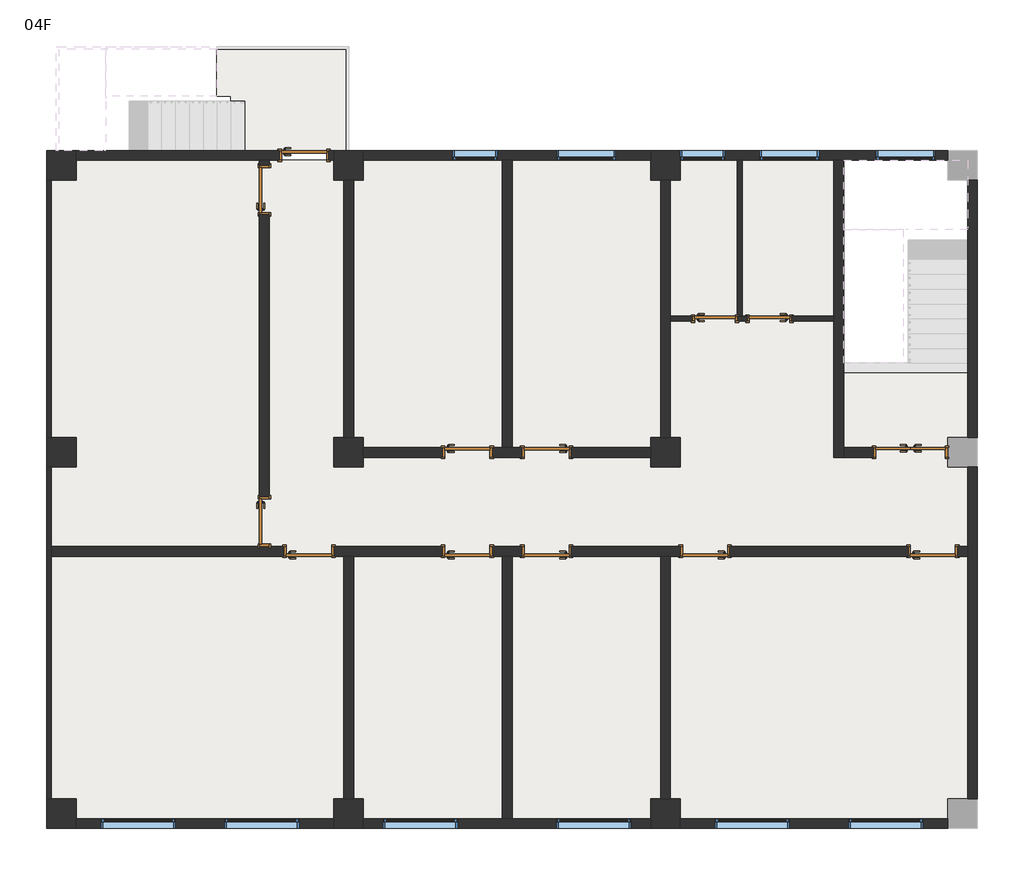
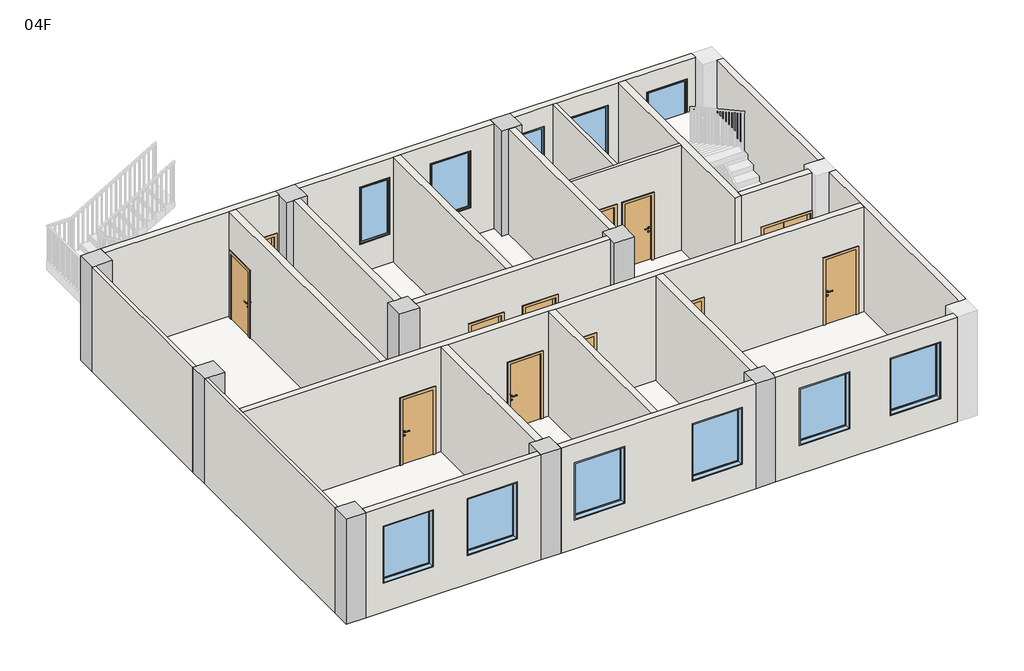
# One storey, part 1 of 3: 23 walls, 13 doors, 11 windows, 9 columns, 2 slabs.
"""IFC4 building model written with IfcOpenShell, lengths in millimetres."""

from ifc_helpers import new_model, si_unit, frame, origin, place, context, project, spatial, polyline, outline, extrude, faceted_brep, transform, mapped, element, save
from components import column_600_x_600mm_0ba91544, m2_692f9d9b, m3_ab7da2a0, m3_c9bb6752, m4_a67fd2dd, m4_12d08f6f, c2_16925ed6, c4_3407baf4, c6_982aaf11

model = new_model("IFC4")

# Units and contexts
model_context = context("Model", 3, world=origin())
ifc_project = project(units=[si_unit("LENGTHUNIT", "METRE", prefix="MILLI")], contexts=[model_context])

# Site, building, storey
site = spatial("IfcSite", under=ifc_project)
building = spatial("IfcBuilding", under=site)
storey = spatial("IfcBuildingStorey", under=building, Name="04F", Elevation=10500.0)

# Columns
placement = place(None, origin())
column_600_x_600mm_shape = column_600_x_600mm_0ba91544(model_context)
element("IfcColumn", 1, ObjectType="混凝土 - 矩形 - 柱 : 600 x 600mm", at=placement, inside=storey, context=model_context, shape_type="MappedRepresentation", body=[
    mapped(column_600_x_600mm_shape, transform((200.0, 13300.0, 0.0), x_axis=(1.0, 0.0, 0.0), y_axis=(0.0, 1.0, 0.0), z_axis=(0.0, 0.0, 1.0))),
])
element("IfcColumn", 2, ObjectType="混凝土 - 矩形 - 柱 : 600 x 600mm", at=placement, inside=storey, context=model_context, shape_type="MappedRepresentation", body=[
    mapped(column_600_x_600mm_shape, transform((6000.0, 13300.0, 0.0), x_axis=(1.0, 0.0, 0.0), y_axis=(0.0, 1.0, 0.0), z_axis=(0.0, 0.0, 1.0))),
])
element("IfcColumn", 3, ObjectType="混凝土 - 矩形 - 柱 : 600 x 600mm", at=placement, inside=storey, context=model_context, shape_type="MappedRepresentation", body=[
    mapped(column_600_x_600mm_shape, transform((12400.0, 13300.0, 0.0), x_axis=(1.0, 0.0, 0.0), y_axis=(0.0, 1.0, 0.0), z_axis=(0.0, 0.0, 1.0))),
])
element("IfcColumn", 4, ObjectType="混凝土 - 矩形 - 柱 : 600 x 600mm", at=placement, inside=storey, context=model_context, shape_type="MappedRepresentation", body=[
    mapped(column_600_x_600mm_shape, transform((200.0, 7500.0, 0.0), x_axis=(1.0, 0.0, 0.0), y_axis=(0.0, 1.0, 0.0), z_axis=(0.0, 0.0, 1.0))),
])
element("IfcColumn", 5, ObjectType="混凝土 - 矩形 - 柱 : 600 x 600mm", at=placement, inside=storey, context=model_context, shape_type="MappedRepresentation", body=[
    mapped(column_600_x_600mm_shape, transform((6000.0, 7500.0, 0.0), x_axis=(1.0, 0.0, 0.0), y_axis=(0.0, 1.0, 0.0), z_axis=(0.0, 0.0, 1.0))),
])
element("IfcColumn", 6, ObjectType="混凝土 - 矩形 - 柱 : 600 x 600mm", at=placement, inside=storey, context=model_context, shape_type="MappedRepresentation", body=[
    mapped(column_600_x_600mm_shape, transform((12400.0, 7500.0, 0.0), x_axis=(1.0, 0.0, 0.0), y_axis=(0.0, 1.0, 0.0), z_axis=(0.0, 0.0, 1.0))),
])
element("IfcColumn", 7, ObjectType="混凝土 - 矩形 - 柱 : 600 x 600mm", at=placement, inside=storey, context=model_context, shape_type="MappedRepresentation", body=[
    mapped(column_600_x_600mm_shape, transform((200.0, 200.0, 0.0), x_axis=(1.0, 0.0, 0.0), y_axis=(0.0, 1.0, 0.0), z_axis=(0.0, 0.0, 1.0))),
])
element("IfcColumn", 8, ObjectType="混凝土 - 矩形 - 柱 : 600 x 600mm", at=placement, inside=storey, context=model_context, shape_type="MappedRepresentation", body=[
    mapped(column_600_x_600mm_shape, transform((6000.0, 200.0, 0.0), x_axis=(1.0, 0.0, 0.0), y_axis=(0.0, 1.0, 0.0), z_axis=(0.0, 0.0, 1.0))),
])
element("IfcColumn", 9, ObjectType="混凝土 - 矩形 - 柱 : 600 x 600mm", at=placement, inside=storey, context=model_context, shape_type="MappedRepresentation", body=[
    mapped(column_600_x_600mm_shape, transform((12400.0, 200.0, 0.0), x_axis=(1.0, 0.0, 0.0), y_axis=(0.0, 1.0, 0.0), z_axis=(0.0, 0.0, 1.0))),
])

# Doors
m2_shape = m2_692f9d9b(model_context)
element("IfcDoor", 10, ObjectType="双面嵌板木门 1 : M2", at=placement, inside=storey, context=model_context, shape_type="MappedRepresentation", body=[
    mapped(m2_shape, transform((17350.0, 7500.0, 10500.0), x_axis=(1.0, 0.0, 0.0), y_axis=(0.0, 1.0, 0.0), z_axis=(0.0, 0.0, 1.0))),
])
m3_shape = m3_ab7da2a0(model_context)
element("IfcDoor", 11, ObjectType="单嵌板木门 1 : M3", at=placement, inside=storey, context=model_context, shape_type="MappedRepresentation", body=[
    mapped(m3_shape, transform((17800.0, 5500.0, 10500.0), x_axis=(1.0, 0.0, 0.0), y_axis=(0.0, 1.0, 0.0), z_axis=(0.0, 0.0, 1.0))),
])
element("IfcDoor", 12, ObjectType="单嵌板木门 1 : M3", at=placement, inside=storey, context=model_context, shape_type="MappedRepresentation", body=[
    mapped(m3_shape, transform((8400.0, 5500.0, 10500.0), x_axis=(1.0, 0.0, 0.0), y_axis=(0.0, 1.0, 0.0), z_axis=(0.0, 0.0, 1.0))),
])
element("IfcDoor", 13, ObjectType="单嵌板木门 1 : M3", at=placement, inside=storey, context=model_context, shape_type="MappedRepresentation", body=[
    mapped(m3_shape, transform((4300.0, 6100.0, 10500.0), x_axis=(0.0, -1.0, 0.0), y_axis=(1.0, 0.0, 0.0), z_axis=(0.0, 0.0, 1.0))),
])
element("IfcDoor", 14, ObjectType="单嵌板木门 1 : M3", at=placement, inside=storey, context=model_context, shape_type="MappedRepresentation", body=[
    mapped(m3_shape, transform((5200.0, 5500.0, 10500.0), x_axis=(1.0, 0.0, 0.0), y_axis=(0.0, 1.0, 0.0), z_axis=(0.0, 0.0, 1.0))),
])
element("IfcDoor", 15, ObjectType="单嵌板木门 1 : M3", at=placement, inside=storey, context=model_context, shape_type="MappedRepresentation", body=[
    mapped(m3_shape, transform((10000.0, 7500.0, 10500.0), x_axis=(-1.0, 0.0, 0.0), y_axis=(0.0, -1.0, 0.0), z_axis=(0.0, 0.0, 1.0))),
])
m3_2_shape = m3_c9bb6752(model_context)
element("IfcDoor", 16, ObjectType="单嵌板木门 1 : M3", at=placement, inside=storey, context=model_context, shape_type="MappedRepresentation", body=[
    mapped(m3_2_shape, transform((13200.0, 5500.0, 10500.0), x_axis=(-1.0, 0.0, 0.0), y_axis=(0.0, -1.0, 0.0), z_axis=(0.0, 0.0, 1.0))),
])
element("IfcDoor", 17, ObjectType="单嵌板木门 1 : M3", at=placement, inside=storey, context=model_context, shape_type="MappedRepresentation", body=[
    mapped(m3_2_shape, transform((10000.0, 5500.0, 10500.0), x_axis=(-1.0, 0.0, 0.0), y_axis=(0.0, -1.0, 0.0), z_axis=(0.0, 0.0, 1.0))),
])
element("IfcDoor", 18, ObjectType="单嵌板木门 1 : M3", at=placement, inside=storey, context=model_context, shape_type="MappedRepresentation", body=[
    mapped(m3_2_shape, transform((5100.0, 13500.0, 10500.0), x_axis=(1.0, 0.0, 0.0), y_axis=(0.0, 1.0, 0.0), z_axis=(0.0, 0.0, 1.0))),
])
element("IfcDoor", 19, ObjectType="单嵌板木门 1 : M3", at=placement, inside=storey, context=model_context, shape_type="MappedRepresentation", body=[
    mapped(m3_2_shape, transform((4300.0, 12800.0, 10500.0), x_axis=(0.0, 1.0, 0.0), y_axis=(-1.0, 0.0, 0.0), z_axis=(0.0, 0.0, 1.0))),
])
element("IfcDoor", 20, ObjectType="单嵌板木门 1 : M3", at=placement, inside=storey, context=model_context, shape_type="MappedRepresentation", body=[
    mapped(m3_2_shape, transform((8400.0, 7500.0, 10500.0), x_axis=(1.0, 0.0, 0.0), y_axis=(0.0, 1.0, 0.0), z_axis=(0.0, 0.0, 1.0))),
])
m4_shape = m4_a67fd2dd(model_context)
element("IfcDoor", 21, ObjectType="单嵌板木门 1 : M4", at=placement, inside=storey, context=model_context, shape_type="MappedRepresentation", body=[
    mapped(m4_shape, transform((13400.0, 10200.0, 10500.0), x_axis=(1.0, 0.0, 0.0), y_axis=(0.0, 1.0, 0.0), z_axis=(0.0, 0.0, 1.0))),
])
m4_2_shape = m4_12d08f6f(model_context)
element("IfcDoor", 22, ObjectType="单嵌板木门 1 : M4", at=placement, inside=storey, context=model_context, shape_type="MappedRepresentation", body=[
    mapped(m4_2_shape, transform((14500.0, 10200.0, 10500.0), x_axis=(-1.0, 0.0, 0.0), y_axis=(0.0, -1.0, 0.0), z_axis=(0.0, 0.0, 1.0))),
])

# Slabs
element("IfcSlab", 23, ObjectType="100mm厚钢筋混凝土", at=placement, inside=storey, context=model_context, shape_type="SweptSolid", body=[
    extrude(outline(polyline([(15800.0, 13400.0), (15800.0, 9100.0), (18500.0, 9100.0), (18500.0, 100.0), (0.0, 100.0), (0.0, 13400.0), (15800.0, 13400.0)])), frame((0.0, 0.0, 10400.0), z_axis=(0.0, 0.0, 1.0), x_axis=(1.0, 0.0, 0.0)), (0.0, 0.0, 1.0), 100.0),
])
element("IfcSlab", 24, ObjectType="常规 - 300mm", at=placement, inside=storey, context=model_context, shape_type="SweptSolid", body=[
    extrude(outline(polyline([(6000.0, 15699.6), (6000.0, 13600.0), (3620.0, 13600.0), (3620.0, 14700.0), (3340.0, 14700.0), (3340.0, 15699.6), (6000.0, 15699.6)])), frame((0.0, 0.0, 10335.0), z_axis=(0.0, 0.0, 1.0), x_axis=(1.0, 0.0, 0.0)), (0.0, 0.0, 1.0), 165.0),
])

# Walls
element("IfcWall", 25, ObjectType="200mm厚加气混凝土砌块", at=placement, inside=storey, context=model_context, shape_type="Brep", body=[
    faceted_brep([(5700.0, 13400.0, 10500.0), (5700.0, 13400.0, 13800.0), (4400.0, 13400.0, 13800.0), (4200.0, 13400.0, 13800.0), (500.0, 13400.0, 13800.0), (500.0, 13400.0, 10500.0), (4200.0, 13400.0, 10500.0), (4400.0, 13400.0, 10500.0), (4600.0, 13400.0, 10500.0), (4600.0, 13400.0, 12600.0), (5600.0, 13400.0, 12600.0), (5600.0, 13400.0, 10500.0), (5700.0, 13600.0, 13800.0), (5700.0, 13600.0, 10500.0), (5600.0, 13600.0, 10500.0), (5600.0, 13600.0, 12600.0), (4600.0, 13600.0, 12600.0), (4600.0, 13600.0, 10500.0), (500.0, 13600.0, 10500.0), (500.0, 13600.0, 13800.0)], [[[0, 1, 2, 3, 4, 5, 6, 7, 8, 9, 10, 11]], [[12, 13, 14, 15, 16, 17, 18, 19]], [[13, 0, 11, 14]], [[5, 18, 17, 8, 7, 6]], [[1, 0, 13, 12]], [[4, 3, 2, 1, 12, 19]], [[5, 4, 19, 18]], [[10, 15, 14, 11]], [[15, 10, 9, 16]], [[16, 9, 8, 17]]]),
])
element("IfcWall", 26, ObjectType="200mm厚加气混凝土砌块", at=placement, inside=storey, context=model_context, shape_type="Brep", body=[
    faceted_brep([(6300.0, 13400.0, 10500.0), (9100.0, 13400.0, 10500.0), (9300.0, 13400.0, 10500.0), (12100.0, 13400.0, 10500.0), (12100.0, 13400.0, 13800.0), (9300.0, 13400.0, 13800.0), (9100.0, 13400.0, 13800.0), (6300.0, 13400.0, 13800.0), (11400.0, 13400.0, 11400.0), (10200.0, 13400.0, 11400.0), (10200.0, 13400.0, 13200.0), (11400.0, 13400.0, 13200.0), (9000.0, 13400.0, 11400.0), (8100.0, 13400.0, 11400.0), (8100.0, 13400.0, 13200.0), (9000.0, 13400.0, 13200.0), (6300.0, 13600.0, 10500.0), (6300.0, 13600.0, 13800.0), (12100.0, 13600.0, 13800.0), (12100.0, 13600.0, 10500.0), (11400.0, 13600.0, 11400.0), (11400.0, 13600.0, 13200.0), (10200.0, 13600.0, 13200.0), (10200.0, 13600.0, 11400.0), (9000.0, 13600.0, 11400.0), (9000.0, 13600.0, 13200.0), (8100.0, 13600.0, 13200.0), (8100.0, 13600.0, 11400.0)], [[[0, 1, 2, 3, 4, 5, 6, 7], [8, 9, 10, 11], [12, 13, 14, 15]], [[16, 17, 18, 19], [20, 21, 22, 23], [24, 25, 26, 27]], [[3, 2, 1, 0, 16, 19]], [[4, 3, 19, 18]], [[7, 6, 5, 4, 18, 17]], [[0, 7, 17, 16]], [[21, 20, 8, 11]], [[22, 21, 11, 10]], [[23, 22, 10, 9]], [[20, 23, 9, 8]], [[25, 24, 12, 15]], [[26, 25, 15, 14]], [[27, 26, 14, 13]], [[24, 27, 13, 12]]]),
])
element("IfcWall", 27, ObjectType="200mm厚加气混凝土砌块", at=placement, inside=storey, context=model_context, shape_type="Brep", body=[
    faceted_brep([(13600.0, 13400.0, 11400.0), (12700.0, 13400.0, 11400.0), (12700.0, 13400.0, 10500.0), (13850.0, 13400.0, 10500.0), (13950.0, 13400.0, 10500.0), (15800.0, 13400.0, 10500.0), (16000.0, 13400.0, 10500.0), (18100.0, 13400.0, 10500.0), (18100.0, 13400.0, 13800.0), (16000.0, 13400.0, 13800.0), (15800.0, 13400.0, 13800.0), (13950.0, 13400.0, 13800.0), (13850.0, 13400.0, 13800.0), (12700.0, 13400.0, 13800.0), (12700.0, 13400.0, 13200.0), (13600.0, 13400.0, 13200.0), (17850.0, 13400.0, 11400.0), (16650.0, 13400.0, 11400.0), (16650.0, 13400.0, 13200.0), (17850.0, 13400.0, 13200.0), (15500.0, 13400.0, 11400.0), (14300.0, 13400.0, 11400.0), (14300.0, 13400.0, 13200.0), (15500.0, 13400.0, 13200.0), (12700.0, 13600.0, 10500.0), (12700.0, 13600.0, 11400.0), (13600.0, 13600.0, 11400.0), (13600.0, 13600.0, 13200.0), (12700.0, 13600.0, 13200.0), (12700.0, 13600.0, 13800.0), (18100.0, 13600.0, 13800.0), (18100.0, 13600.0, 10500.0), (17850.0, 13600.0, 11400.0), (17850.0, 13600.0, 13200.0), (16650.0, 13600.0, 13200.0), (16650.0, 13600.0, 11400.0), (15500.0, 13600.0, 11400.0), (15500.0, 13600.0, 13200.0), (14300.0, 13600.0, 13200.0), (14300.0, 13600.0, 11400.0)], [[[0, 1, 2, 3, 4, 5, 6, 7, 8, 9, 10, 11, 12, 13, 14, 15], [16, 17, 18, 19], [20, 21, 22, 23]], [[24, 25, 26, 27, 28, 29, 30, 31], [32, 33, 34, 35], [36, 37, 38, 39]], [[7, 6, 5, 4, 3, 2, 24, 31]], [[8, 7, 31, 30]], [[13, 12, 11, 10, 9, 8, 30, 29]], [[14, 13, 29, 28]], [[2, 1, 25, 24]], [[33, 32, 16, 19]], [[34, 33, 19, 18]], [[35, 34, 18, 17]], [[32, 35, 17, 16]], [[37, 36, 20, 23]], [[38, 37, 23, 22]], [[39, 38, 22, 21]], [[36, 39, 21, 20]], [[27, 26, 0, 15]], [[28, 27, 15, 14]], [[26, 25, 1, 0]]]),
])
element("IfcWall", 28, ObjectType="200mm厚加气混凝土砌块", at=placement, inside=storey, context=model_context, shape_type="SweptSolid", body=[
    extrude(outline(polyline([(18500.0, 7800.0), (18500.0, 13000.0), (18700.0, 13000.0), (18700.0, 7800.0), (18500.0, 7800.0)])), frame((0.0, 0.0, 10500.0), z_axis=(0.0, 0.0, 1.0), x_axis=(1.0, 0.0, 0.0)), (0.0, 0.0, 1.0), 3300.0),
])
element("IfcWall", 29, ObjectType="200mm厚加气混凝土砌块", at=placement, inside=storey, context=model_context, shape_type="Brep", body=[
    faceted_brep([(18500.0, 7200.0, 10500.0), (18500.0, 5600.0, 10500.0), (18500.0, 5400.0, 10500.0), (18500.0, 500.0, 10500.0), (18500.0, 500.0, 13800.0), (18500.0, 5400.0, 13800.0), (18500.0, 5600.0, 13800.0), (18500.0, 7200.0, 13800.0), (18700.0, 7200.0, 10500.0), (18700.0, 7200.0, 13800.0), (18700.0, 500.0, 13800.0), (18700.0, 500.0, 10500.0)], [[[0, 1, 2, 3, 4, 5, 6, 7]], [[8, 9, 10, 11]], [[3, 2, 1, 0, 8, 11]], [[4, 3, 11, 10]], [[7, 6, 5, 4, 10, 9]], [[0, 7, 9, 8]]]),
])
element("IfcWall", 30, ObjectType="200mm厚加气混凝土砌块", at=placement, inside=storey, context=model_context, shape_type="SweptSolid", body=[
    extrude(outline(polyline([(10500.0, 18100.0), (13800.0, 18100.0), (13800.0, 12700.0), (10500.0, 12700.0), (10500.0, 18100.0)]), holes=[polyline([(11400.0, 16100.0), (13200.0, 16100.0), (13200.0, 17600.0), (11400.0, 17600.0), (11400.0, 16100.0)]), polyline([(11400.0, 13400.0), (13200.0, 13400.0), (13200.0, 14900.0), (11400.0, 14900.0), (11400.0, 13400.0)])]), frame((0.0, -100.0, 0.0), z_axis=(0.0, 1.0, 0.0), x_axis=(0.0, 0.0, 1.0)), (0.0, 0.0, 1.0), 200.0),
])
element("IfcWall", 31, ObjectType="200mm厚加气混凝土砌块", at=placement, inside=storey, context=model_context, shape_type="Brep", body=[
    faceted_brep([(12100.0, 100.0, 10500.0), (9300.0, 100.0, 10500.0), (9100.0, 100.0, 10500.0), (6300.0, 100.0, 10500.0), (6300.0, 100.0, 13800.0), (9100.0, 100.0, 13800.0), (9300.0, 100.0, 13800.0), (12100.0, 100.0, 13800.0), (6700.0, 100.0, 11400.0), (8200.0, 100.0, 11400.0), (8200.0, 100.0, 13200.0), (6700.0, 100.0, 13200.0), (10200.0, 100.0, 11400.0), (11700.0, 100.0, 11400.0), (11700.0, 100.0, 13200.0), (10200.0, 100.0, 13200.0), (12100.0, -100.0, 10500.0), (12100.0, -100.0, 13800.0), (6300.0, -100.0, 13800.0), (6300.0, -100.0, 10500.0), (6700.0, -100.0, 11400.0), (6700.0, -100.0, 13200.0), (8200.0, -100.0, 13200.0), (8200.0, -100.0, 11400.0), (10200.0, -100.0, 11400.0), (10200.0, -100.0, 13200.0), (11700.0, -100.0, 13200.0), (11700.0, -100.0, 11400.0)], [[[0, 1, 2, 3, 4, 5, 6, 7], [8, 9, 10, 11], [12, 13, 14, 15]], [[16, 17, 18, 19], [20, 21, 22, 23], [24, 25, 26, 27]], [[3, 2, 1, 0, 16, 19]], [[4, 3, 19, 18]], [[7, 6, 5, 4, 18, 17]], [[0, 7, 17, 16]], [[21, 20, 8, 11]], [[22, 21, 11, 10]], [[23, 22, 10, 9]], [[20, 23, 9, 8]], [[25, 24, 12, 15]], [[26, 25, 15, 14]], [[27, 26, 14, 13]], [[24, 27, 13, 12]]]),
])
element("IfcWall", 32, ObjectType="200mm厚加气混凝土砌块", at=placement, inside=storey, context=model_context, shape_type="SweptSolid", body=[
    extrude(outline(polyline([(10500.0, 5700.0), (13800.0, 5700.0), (13800.0, 500.0), (10500.0, 500.0), (10500.0, 5700.0)]), holes=[polyline([(11400.0, 1000.0), (13200.0, 1000.0), (13200.0, 2500.0), (11400.0, 2500.0), (11400.0, 1000.0)]), polyline([(11400.0, 3500.0), (13200.0, 3500.0), (13200.0, 5000.0), (11400.0, 5000.0), (11400.0, 3500.0)])]), frame((0.0, -100.0, 0.0), z_axis=(0.0, 1.0, 0.0), x_axis=(0.0, 0.0, 1.0)), (0.0, 0.0, 1.0), 200.0),
])
element("IfcWall", 33, ObjectType="100mm厚加气混凝土砌块", at=placement, inside=storey, context=model_context, shape_type="Brep", body=[
    faceted_brep([(0.0, 500.0, 10500.0), (0.0, 5400.0, 10500.0), (0.0, 5600.0, 10500.0), (0.0, 7200.0, 10500.0), (0.0, 7200.0, 13800.0), (0.0, 5600.0, 13800.0), (0.0, 5400.0, 13800.0), (0.0, 500.0, 13800.0), (-100.0, 500.0, 10500.0), (-100.0, 500.0, 13800.0), (-100.0, 7200.0, 13800.0), (-100.0, 7200.0, 10500.0)], [[[0, 1, 2, 3, 4, 5, 6, 7]], [[8, 9, 10, 11]], [[3, 2, 1, 0, 8, 11]], [[4, 3, 11, 10]], [[7, 6, 5, 4, 10, 9]], [[0, 7, 9, 8]]]),
])
element("IfcWall", 34, ObjectType="100mm厚加气混凝土砌块", at=placement, inside=storey, context=model_context, shape_type="SweptSolid", body=[
    extrude(outline(polyline([(0.0, 13000.0), (0.0, 7800.0), (-100.0, 7800.0), (-100.0, 13000.0), (0.0, 13000.0)])), frame((0.0, 0.0, 10500.0), z_axis=(0.0, 0.0, 1.0), x_axis=(1.0, 0.0, 0.0)), (0.0, 0.0, 1.0), 3300.0),
])
element("IfcWall", 35, ObjectType="200mm厚加气混凝土砌块", at=placement, inside=storey, context=model_context, shape_type="SweptSolid", body=[
    extrude(outline(polyline([(5900.0, 7800.0), (5900.0, 13000.0), (6100.0, 13000.0), (6100.0, 7800.0), (5900.0, 7800.0)])), frame((0.0, 0.0, 10500.0), z_axis=(0.0, 0.0, 1.0), x_axis=(1.0, 0.0, 0.0)), (0.0, 0.0, 1.0), 3300.0),
])
element("IfcWall", 36, ObjectType="200mm厚加气混凝土砌块", at=placement, inside=storey, context=model_context, shape_type="SweptSolid", body=[
    extrude(outline(polyline([(5900.0, 500.0), (5900.0, 5400.0), (6100.0, 5400.0), (6100.0, 500.0), (5900.0, 500.0)])), frame((0.0, 0.0, 10500.0), z_axis=(0.0, 0.0, 1.0), x_axis=(1.0, 0.0, 0.0)), (0.0, 0.0, 1.0), 3300.0),
])
element("IfcWall", 37, ObjectType="200mm厚加气混凝土砌块", at=placement, inside=storey, context=model_context, shape_type="Brep", body=[
    faceted_brep([(18500.0, 5400.0, 13800.0), (12500.0, 5400.0, 13800.0), (12300.0, 5400.0, 13800.0), (9300.0, 5400.0, 13800.0), (9100.0, 5400.0, 13800.0), (6100.0, 5400.0, 13800.0), (5900.0, 5400.0, 13800.0), (0.0, 5400.0, 13800.0), (0.0, 5400.0, 10500.0), (4700.0, 5400.0, 10500.0), (4700.0, 5400.0, 12600.0), (5700.0, 5400.0, 12600.0), (5700.0, 5400.0, 10500.0), (5900.0, 5400.0, 10500.0), (6100.0, 5400.0, 10500.0), (7900.0, 5400.0, 10500.0), (7900.0, 5400.0, 12600.0), (8900.0, 5400.0, 12600.0), (8900.0, 5400.0, 10500.0), (9100.0, 5400.0, 10500.0), (9300.0, 5400.0, 10500.0), (9500.0, 5400.0, 10500.0), (9500.0, 5400.0, 12600.0), (10500.0, 5400.0, 12600.0), (10500.0, 5400.0, 10500.0), (12300.0, 5400.0, 10500.0), (12500.0, 5400.0, 10500.0), (12700.0, 5400.0, 10500.0), (12700.0, 5400.0, 12600.0), (13700.0, 5400.0, 12600.0), (13700.0, 5400.0, 10500.0), (17300.0, 5400.0, 10500.0), (17300.0, 5400.0, 12600.0), (18300.0, 5400.0, 12600.0), (18300.0, 5400.0, 10500.0), (18500.0, 5400.0, 10500.0), (0.0, 5600.0, 13800.0), (4200.0, 5600.0, 13800.0), (4400.0, 5600.0, 13800.0), (18500.0, 5600.0, 13800.0), (18500.0, 5600.0, 10500.0), (18300.0, 5600.0, 10500.0), (18300.0, 5600.0, 12600.0), (17300.0, 5600.0, 12600.0), (17300.0, 5600.0, 10500.0), (13700.0, 5600.0, 10500.0), (13700.0, 5600.0, 12600.0), (12700.0, 5600.0, 12600.0), (12700.0, 5600.0, 10500.0), (10500.0, 5600.0, 10500.0), (10500.0, 5600.0, 12600.0), (9500.0, 5600.0, 12600.0), (9500.0, 5600.0, 10500.0), (8900.0, 5600.0, 10500.0), (8900.0, 5600.0, 12600.0), (7900.0, 5600.0, 12600.0), (7900.0, 5600.0, 10500.0), (5700.0, 5600.0, 10500.0), (5700.0, 5600.0, 12600.0), (4700.0, 5600.0, 12600.0), (4700.0, 5600.0, 10500.0), (0.0, 5600.0, 10500.0)], [[[0, 1, 2, 3, 4, 5, 6, 7, 8, 9, 10, 11, 12, 13, 14, 15, 16, 17, 18, 19, 20, 21, 22, 23, 24, 25, 26, 27, 28, 29, 30, 31, 32, 33, 34, 35]], [[36, 37, 38, 39, 40, 41, 42, 43, 44, 45, 46, 47, 48, 49, 50, 51, 52, 53, 54, 55, 56, 57, 58, 59, 60, 61]], [[40, 35, 34, 41]], [[8, 61, 60, 9]], [[12, 57, 56, 15, 14, 13]], [[18, 53, 52, 21, 20, 19]], [[24, 49, 48, 27, 26, 25]], [[44, 31, 30, 45]], [[7, 6, 5, 4, 3, 2, 1, 0, 39, 38, 37, 36]], [[0, 35, 40, 39]], [[8, 7, 36, 61]], [[11, 58, 57, 12]], [[58, 11, 10, 59]], [[59, 10, 9, 60]], [[17, 54, 53, 18]], [[54, 17, 16, 55]], [[55, 16, 15, 56]], [[51, 22, 21, 52]], [[22, 51, 50, 23]], [[23, 50, 49, 24]], [[33, 42, 41, 34]], [[42, 33, 32, 43]], [[43, 32, 31, 44]], [[47, 28, 27, 48]], [[28, 47, 46, 29]], [[29, 46, 45, 30]]]),
])
element("IfcWall", 38, ObjectType="200mm厚加气混凝土砌块", at=placement, inside=storey, context=model_context, shape_type="SweptSolid", body=[
    extrude(outline(polyline([(12300.0, 500.0), (12300.0, 5400.0), (12500.0, 5400.0), (12500.0, 500.0), (12300.0, 500.0)])), frame((0.0, 0.0, 10500.0), z_axis=(0.0, 0.0, 1.0), x_axis=(1.0, 0.0, 0.0)), (0.0, 0.0, 1.0), 3300.0),
])
element("IfcWall", 39, ObjectType="200mm厚加气混凝土砌块", at=placement, inside=storey, context=model_context, shape_type="Brep", body=[
    faceted_brep([(12300.0, 13000.0, 10500.0), (12300.0, 7800.0, 10500.0), (12300.0, 7800.0, 13800.0), (12300.0, 13000.0, 13800.0), (12500.0, 13000.0, 10500.0), (12500.0, 13000.0, 13800.0), (12500.0, 10250.0, 13800.0), (12500.0, 10150.0, 13800.0), (12500.0, 7800.0, 13800.0), (12500.0, 7800.0, 10500.0), (12500.0, 10150.0, 10500.0), (12500.0, 10250.0, 10500.0)], [[[0, 1, 2, 3]], [[4, 5, 6, 7, 8, 9, 10, 11]], [[1, 0, 4, 11, 10, 9]], [[2, 1, 9, 8]], [[3, 2, 8, 7, 6, 5]], [[0, 3, 5, 4]]]),
])
element("IfcWall", 40, ObjectType="200mm厚加气混凝土砌块", at=placement, inside=storey, context=model_context, shape_type="Brep", body=[
    faceted_brep([(15800.0, 13400.0, 10500.0), (15800.0, 10250.0, 10500.0), (15800.0, 10150.0, 10500.0), (15800.0, 7400.0, 10500.0), (15800.0, 7400.0, 13800.0), (15800.0, 10150.0, 13800.0), (15800.0, 10250.0, 13800.0), (15800.0, 13400.0, 13800.0), (16000.0, 13400.0, 10500.0), (16000.0, 13400.0, 13800.0), (16000.0, 7600.0, 13800.0), (16000.0, 7400.0, 13800.0), (16000.0, 7400.0, 10500.0), (16000.0, 7600.0, 10500.0)], [[[0, 1, 2, 3, 4, 5, 6, 7]], [[8, 9, 10, 11, 12, 13]], [[3, 2, 1, 0, 8, 13, 12]], [[7, 6, 5, 4, 11, 10, 9]], [[0, 7, 9, 8]], [[4, 3, 12, 11]]]),
])
element("IfcWall", 41, ObjectType="200mm厚加气混凝土砌块", at=placement, inside=storey, context=model_context, shape_type="SweptSolid", body=[
    extrude(outline(polyline([(13800.0, 18100.0), (13800.0, 16000.0), (10500.0, 16000.0), (10500.0, 16600.0), (12600.0, 16600.0), (12600.0, 18100.0), (13800.0, 18100.0)])), frame((0.0, 7400.0, 0.0), z_axis=(0.0, 1.0, 0.0), x_axis=(0.0, 0.0, 1.0)), (0.0, 0.0, 1.0), 200.0),
])
element("IfcWall", 42, ObjectType="100mm厚加气混凝土砌块", at=placement, inside=storey, context=model_context, shape_type="Brep", body=[
    faceted_brep([(15800.0, 10150.0, 13800.0), (12500.0, 10150.0, 13800.0), (12500.0, 10150.0, 10500.0), (12950.0, 10150.0, 10500.0), (12950.0, 10150.0, 12600.0), (13850.0, 10150.0, 12600.0), (13850.0, 10150.0, 10500.0), (14050.0, 10150.0, 10500.0), (14050.0, 10150.0, 12600.0), (14950.0, 10150.0, 12600.0), (14950.0, 10150.0, 10500.0), (15800.0, 10150.0, 10500.0), (12500.0, 10250.0, 13800.0), (13850.0, 10250.0, 13800.0), (13950.0, 10250.0, 13800.0), (15800.0, 10250.0, 13800.0), (15800.0, 10250.0, 10500.0), (14950.0, 10250.0, 10500.0), (14950.0, 10250.0, 12600.0), (14050.0, 10250.0, 12600.0), (14050.0, 10250.0, 10500.0), (13950.0, 10250.0, 10500.0), (13850.0, 10250.0, 10500.0), (13850.0, 10250.0, 12600.0), (12950.0, 10250.0, 12600.0), (12950.0, 10250.0, 10500.0), (12500.0, 10250.0, 10500.0)], [[[0, 1, 2, 3, 4, 5, 6, 7, 8, 9, 10, 11]], [[12, 13, 14, 15, 16, 17, 18, 19, 20, 21, 22, 23, 24, 25, 26]], [[2, 26, 25, 3]], [[16, 11, 10, 17]], [[20, 7, 6, 22, 21]], [[1, 0, 15, 14, 13, 12]], [[2, 1, 12, 26]], [[0, 11, 16, 15]], [[19, 8, 7, 20]], [[8, 19, 18, 9]], [[9, 18, 17, 10]], [[5, 23, 22, 6]], [[23, 5, 4, 24]], [[24, 4, 3, 25]]]),
])
element("IfcWall", 43, ObjectType="100mm厚加气混凝土砌块", at=placement, inside=storey, context=model_context, shape_type="SweptSolid", body=[
    extrude(outline(polyline([(13850.0, 10250.0), (13850.0, 13400.0), (13950.0, 13400.0), (13950.0, 10250.0), (13850.0, 10250.0)])), frame((0.0, 0.0, 10500.0), z_axis=(0.0, 0.0, 1.0), x_axis=(1.0, 0.0, 0.0)), (0.0, 0.0, 1.0), 3300.0),
])
element("IfcWall", 44, ObjectType="200mm厚加气混凝土砌块", at=placement, inside=storey, context=model_context, shape_type="SweptSolid", body=[
    extrude(outline(polyline([(5600.0, 13800.0), (13400.0, 13800.0), (13400.0, 10500.0), (13300.0, 10500.0), (13300.0, 12600.0), (12300.0, 12600.0), (12300.0, 10500.0), (6600.0, 10500.0), (6600.0, 12600.0), (5600.0, 12600.0), (5600.0, 13800.0)])), frame((4200.0, 0.0, 0.0), z_axis=(1.0, 0.0, 0.0), x_axis=(0.0, 1.0, 0.0)), (0.0, 0.0, 1.0), 200.0),
])
element("IfcWall", 45, ObjectType="200mm厚加气混凝土砌块", at=placement, inside=storey, context=model_context, shape_type="SweptSolid", body=[
    extrude(outline(polyline([(9100.0, 100.0), (9100.0, 5400.0), (9300.0, 5400.0), (9300.0, 100.0), (9100.0, 100.0)])), frame((0.0, 0.0, 10500.0), z_axis=(0.0, 0.0, 1.0), x_axis=(1.0, 0.0, 0.0)), (0.0, 0.0, 1.0), 3300.0),
])
element("IfcWall", 46, ObjectType="200mm厚加气混凝土砌块", at=placement, inside=storey, context=model_context, shape_type="Brep", body=[
    faceted_brep([(12100.0, 7400.0, 10500.0), (12100.0, 7400.0, 13800.0), (6300.0, 7400.0, 13800.0), (6300.0, 7400.0, 10500.0), (7900.0, 7400.0, 10500.0), (7900.0, 7400.0, 12600.0), (8900.0, 7400.0, 12600.0), (8900.0, 7400.0, 10500.0), (9500.0, 7400.0, 10500.0), (9500.0, 7400.0, 12600.0), (10500.0, 7400.0, 12600.0), (10500.0, 7400.0, 10500.0), (12100.0, 7600.0, 13800.0), (12100.0, 7600.0, 10500.0), (10500.0, 7600.0, 10500.0), (10500.0, 7600.0, 12600.0), (9500.0, 7600.0, 12600.0), (9500.0, 7600.0, 10500.0), (9300.0, 7600.0, 10500.0), (9100.0, 7600.0, 10500.0), (8900.0, 7600.0, 10500.0), (8900.0, 7600.0, 12600.0), (7900.0, 7600.0, 12600.0), (7900.0, 7600.0, 10500.0), (6300.0, 7600.0, 10500.0), (6300.0, 7600.0, 13800.0), (9100.0, 7600.0, 13800.0), (9300.0, 7600.0, 13800.0)], [[[0, 1, 2, 3, 4, 5, 6, 7, 8, 9, 10, 11]], [[12, 13, 14, 15, 16, 17, 18, 19, 20, 21, 22, 23, 24, 25, 26, 27]], [[13, 0, 11, 14]], [[3, 24, 23, 4]], [[17, 8, 7, 20, 19, 18]], [[1, 0, 13, 12]], [[2, 1, 12, 27, 26, 25]], [[3, 2, 25, 24]], [[16, 9, 8, 17]], [[9, 16, 15, 10]], [[10, 15, 14, 11]], [[6, 21, 20, 7]], [[21, 6, 5, 22]], [[22, 5, 4, 23]]]),
])
element("IfcWall", 47, ObjectType="200mm厚加气混凝土砌块", at=placement, inside=storey, context=model_context, shape_type="SweptSolid", body=[
    extrude(outline(polyline([(9300.0, 13400.0), (9300.0, 7600.0), (9100.0, 7600.0), (9100.0, 13400.0), (9300.0, 13400.0)])), frame((0.0, 0.0, 10500.0), z_axis=(0.0, 0.0, 1.0), x_axis=(1.0, 0.0, 0.0)), (0.0, 0.0, 1.0), 3300.0),
])

# Windows
c2_shape = c2_16925ed6(model_context)
element("IfcWindow", 48, ObjectType="固定 : C2", at=placement, inside=storey, context=model_context, shape_type="MappedRepresentation", body=[
    mapped(c2_shape, transform((10950.0, -13.0, 10500.0), x_axis=(1.0, 0.0, 0.0), y_axis=(0.0, 1.0, 0.0), z_axis=(0.0, 0.0, 1.0))),
])
element("IfcWindow", 49, ObjectType="固定 : C2", at=placement, inside=storey, context=model_context, shape_type="MappedRepresentation", body=[
    mapped(c2_shape, transform((7450.0, -13.0, 10500.0), x_axis=(1.0, 0.0, 0.0), y_axis=(0.0, 1.0, 0.0), z_axis=(0.0, 0.0, 1.0))),
])
element("IfcWindow", 50, ObjectType="固定 : C2", at=placement, inside=storey, context=model_context, shape_type="MappedRepresentation", body=[
    mapped(c2_shape, transform((4250.0, -13.0, 10500.0), x_axis=(1.0, 0.0, 0.0), y_axis=(0.0, 1.0, 0.0), z_axis=(0.0, 0.0, 1.0))),
])
element("IfcWindow", 51, ObjectType="固定 : C2", at=placement, inside=storey, context=model_context, shape_type="MappedRepresentation", body=[
    mapped(c2_shape, transform((1750.0, -13.0, 10500.0), x_axis=(1.0, 0.0, 0.0), y_axis=(0.0, 1.0, 0.0), z_axis=(0.0, 0.0, 1.0))),
])
element("IfcWindow", 52, ObjectType="固定 : C2", at=placement, inside=storey, context=model_context, shape_type="MappedRepresentation", body=[
    mapped(c2_shape, transform((14150.0, -13.0, 10500.0), x_axis=(1.0, 0.0, 0.0), y_axis=(0.0, 1.0, 0.0), z_axis=(0.0, 0.0, 1.0))),
])
element("IfcWindow", 53, ObjectType="固定 : C2", at=placement, inside=storey, context=model_context, shape_type="MappedRepresentation", body=[
    mapped(c2_shape, transform((16850.0, -13.0, 10500.0), x_axis=(1.0, 0.0, 0.0), y_axis=(0.0, 1.0, 0.0), z_axis=(0.0, 0.0, 1.0))),
])
c4_shape = c4_3407baf4(model_context)
element("IfcWindow", 54, ObjectType="固定 : C4", at=placement, inside=storey, context=model_context, shape_type="MappedRepresentation", body=[
    mapped(c4_shape, transform((14900.0, 13513.0, 10500.0), x_axis=(-1.0, 0.0, 0.0), y_axis=(0.0, -1.0, 0.0), z_axis=(0.0, 0.0, 1.0))),
])
element("IfcWindow", 55, ObjectType="固定 : C4", at=placement, inside=storey, context=model_context, shape_type="MappedRepresentation", body=[
    mapped(c4_shape, transform((17250.0, 13513.0, 10500.0), x_axis=(-1.0, 0.0, 0.0), y_axis=(0.0, -1.0, 0.0), z_axis=(0.0, 0.0, 1.0))),
])
element("IfcWindow", 56, ObjectType="固定 : C4", at=placement, inside=storey, context=model_context, shape_type="MappedRepresentation", body=[
    mapped(c4_shape, transform((10800.0, 13513.0, 10500.0), x_axis=(-1.0, 0.0, 0.0), y_axis=(0.0, -1.0, 0.0), z_axis=(0.0, 0.0, 1.0))),
])
c6_shape = c6_982aaf11(model_context)
element("IfcWindow", 57, ObjectType="固定 : C6", at=placement, inside=storey, context=model_context, shape_type="MappedRepresentation", body=[
    mapped(c6_shape, transform((8550.0, 13513.0, 10500.0), x_axis=(-1.0, 0.0, 0.0), y_axis=(0.0, -1.0, 0.0), z_axis=(0.0, 0.0, 1.0))),
])
element("IfcWindow", 58, ObjectType="固定 : C6", at=placement, inside=storey, context=model_context, shape_type="MappedRepresentation", body=[
    mapped(c6_shape, transform((13150.0, 13513.0, 10500.0), x_axis=(-1.0, 0.0, 0.0), y_axis=(0.0, -1.0, 0.0), z_axis=(0.0, 0.0, 1.0))),
])

save(model, "model.ifc")
